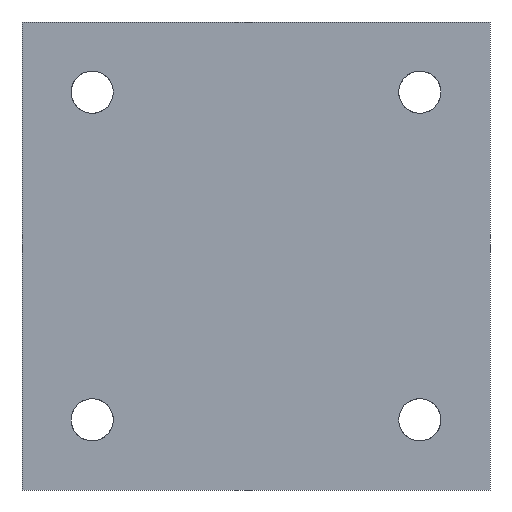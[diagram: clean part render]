
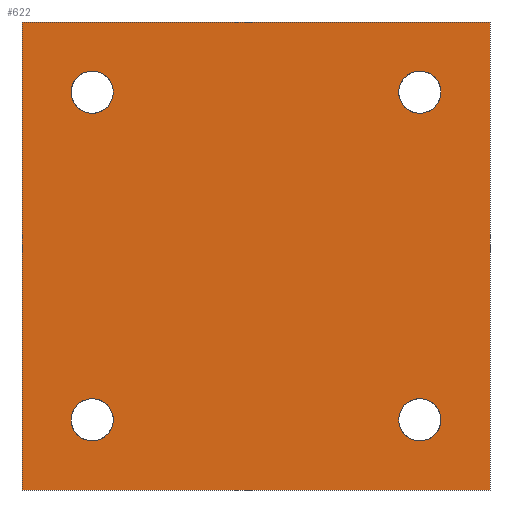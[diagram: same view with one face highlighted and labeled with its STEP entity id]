
A CAD part, front view. The second image highlights one B-rep face of the part: STEP entity #622.
In plain terms, the highlighted face is a extrusion surface.
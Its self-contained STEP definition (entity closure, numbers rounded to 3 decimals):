
#439=CARTESIAN_POINT('Control Point',(-100.,0.,0.)) ;
#440=CARTESIAN_POINT('Control Point',(-100.,0.,-100.)) ;
#444=CARTESIAN_POINT('Line Origine',(-50.,0.,-100.)) ;
#448=CARTESIAN_POINT('Vertex',(-100.,0.,-100.)) ;
#450=CARTESIAN_POINT('Vertex',(0.,0.,-100.)) ;
#453=CARTESIAN_POINT('Line Origine',(0.,0.,-50.)) ;
#457=CARTESIAN_POINT('Vertex',(0.,0.,0.)) ;
#460=CARTESIAN_POINT('Line Origine',(-50.,0.,0.)) ;
#464=CARTESIAN_POINT('Vertex',(-100.,0.,0.)) ;
#467=CARTESIAN_POINT('Line Origine',(-100.,0.,-50.)) ;
#479=CARTESIAN_POINT('Control Point',(-10.5,0.,-85.)) ;
#480=CARTESIAN_POINT('Control Point',(-10.5,0.,-86.247)) ;
#481=CARTESIAN_POINT('Control Point',(-10.932,0.,-87.494)) ;
#482=CARTESIAN_POINT('Control Point',(-11.8,0.,-88.539)) ;
#483=CARTESIAN_POINT('Control Point',(-13.71,0.,-89.63)) ;
#484=CARTESIAN_POINT('Control Point',(-15.841,0.,-89.54)) ;
#485=CARTESIAN_POINT('Control Point',(-16.671,0.,-89.305)) ;
#486=CARTESIAN_POINT('Control Point',(-18.085,0.,-88.511)) ;
#487=CARTESIAN_POINT('Control Point',(-19.032,0.,-87.204)) ;
#488=CARTESIAN_POINT('Control Point',(-19.344,0.,-86.498)) ;
#489=CARTESIAN_POINT('Control Point',(-19.5,0.,-85.749)) ;
#490=CARTESIAN_POINT('Control Point',(-19.5,0.,-85.)) ;
#491=CARTESIAN_POINT('Vertex',(-10.5,0.,-85.)) ;
#493=CARTESIAN_POINT('Vertex',(-19.5,0.,-85.)) ;
#497=CARTESIAN_POINT('Control Point',(-19.5,0.,-85.)) ;
#498=CARTESIAN_POINT('Control Point',(-19.5,0.,-83.753)) ;
#499=CARTESIAN_POINT('Control Point',(-19.068,0.,-82.506)) ;
#500=CARTESIAN_POINT('Control Point',(-18.2,0.,-81.461)) ;
#501=CARTESIAN_POINT('Control Point',(-16.29,0.,-80.37)) ;
#502=CARTESIAN_POINT('Control Point',(-14.159,0.,-80.46)) ;
#503=CARTESIAN_POINT('Control Point',(-13.329,0.,-80.695)) ;
#504=CARTESIAN_POINT('Control Point',(-11.915,0.,-81.489)) ;
#505=CARTESIAN_POINT('Control Point',(-10.968,0.,-82.796)) ;
#506=CARTESIAN_POINT('Control Point',(-10.656,0.,-83.502)) ;
#507=CARTESIAN_POINT('Control Point',(-10.5,0.,-84.251)) ;
#508=CARTESIAN_POINT('Control Point',(-10.5,0.,-85.)) ;
#515=CARTESIAN_POINT('Control Point',(-80.5,0.,-85.)) ;
#516=CARTESIAN_POINT('Control Point',(-80.5,0.,-86.247)) ;
#517=CARTESIAN_POINT('Control Point',(-80.932,0.,-87.494)) ;
#518=CARTESIAN_POINT('Control Point',(-81.8,0.,-88.539)) ;
#519=CARTESIAN_POINT('Control Point',(-83.71,0.,-89.63)) ;
#520=CARTESIAN_POINT('Control Point',(-85.841,0.,-89.54)) ;
#521=CARTESIAN_POINT('Control Point',(-86.671,0.,-89.305)) ;
#522=CARTESIAN_POINT('Control Point',(-88.085,0.,-88.511)) ;
#523=CARTESIAN_POINT('Control Point',(-89.032,0.,-87.204)) ;
#524=CARTESIAN_POINT('Control Point',(-89.344,0.,-86.498)) ;
#525=CARTESIAN_POINT('Control Point',(-89.5,0.,-85.749)) ;
#526=CARTESIAN_POINT('Control Point',(-89.5,0.,-85.)) ;
#527=CARTESIAN_POINT('Vertex',(-80.5,0.,-85.)) ;
#529=CARTESIAN_POINT('Vertex',(-89.5,0.,-85.)) ;
#533=CARTESIAN_POINT('Control Point',(-89.5,0.,-85.)) ;
#534=CARTESIAN_POINT('Control Point',(-89.5,0.,-83.753)) ;
#535=CARTESIAN_POINT('Control Point',(-89.068,0.,-82.506)) ;
#536=CARTESIAN_POINT('Control Point',(-88.2,0.,-81.461)) ;
#537=CARTESIAN_POINT('Control Point',(-86.29,0.,-80.37)) ;
#538=CARTESIAN_POINT('Control Point',(-84.159,0.,-80.46)) ;
#539=CARTESIAN_POINT('Control Point',(-83.329,0.,-80.695)) ;
#540=CARTESIAN_POINT('Control Point',(-81.915,0.,-81.489)) ;
#541=CARTESIAN_POINT('Control Point',(-80.968,0.,-82.796)) ;
#542=CARTESIAN_POINT('Control Point',(-80.656,0.,-83.502)) ;
#543=CARTESIAN_POINT('Control Point',(-80.5,0.,-84.251)) ;
#544=CARTESIAN_POINT('Control Point',(-80.5,0.,-85.)) ;
#551=CARTESIAN_POINT('Control Point',(-80.5,0.,-15.)) ;
#552=CARTESIAN_POINT('Control Point',(-80.5,0.,-16.247)) ;
#553=CARTESIAN_POINT('Control Point',(-80.932,0.,-17.494)) ;
#554=CARTESIAN_POINT('Control Point',(-81.8,0.,-18.539)) ;
#555=CARTESIAN_POINT('Control Point',(-83.71,0.,-19.63)) ;
#556=CARTESIAN_POINT('Control Point',(-85.841,0.,-19.54)) ;
#557=CARTESIAN_POINT('Control Point',(-86.671,0.,-19.305)) ;
#558=CARTESIAN_POINT('Control Point',(-88.085,0.,-18.511)) ;
#559=CARTESIAN_POINT('Control Point',(-89.032,0.,-17.204)) ;
#560=CARTESIAN_POINT('Control Point',(-89.344,0.,-16.498)) ;
#561=CARTESIAN_POINT('Control Point',(-89.5,0.,-15.749)) ;
#562=CARTESIAN_POINT('Control Point',(-89.5,0.,-15.)) ;
#563=CARTESIAN_POINT('Vertex',(-80.5,0.,-15.)) ;
#565=CARTESIAN_POINT('Vertex',(-89.5,0.,-15.)) ;
#569=CARTESIAN_POINT('Control Point',(-89.5,0.,-15.)) ;
#570=CARTESIAN_POINT('Control Point',(-89.5,0.,-13.753)) ;
#571=CARTESIAN_POINT('Control Point',(-89.068,0.,-12.506)) ;
#572=CARTESIAN_POINT('Control Point',(-88.2,0.,-11.461)) ;
#573=CARTESIAN_POINT('Control Point',(-86.29,0.,-10.37)) ;
#574=CARTESIAN_POINT('Control Point',(-84.159,0.,-10.46)) ;
#575=CARTESIAN_POINT('Control Point',(-83.329,0.,-10.695)) ;
#576=CARTESIAN_POINT('Control Point',(-81.915,0.,-11.489)) ;
#577=CARTESIAN_POINT('Control Point',(-80.968,0.,-12.796)) ;
#578=CARTESIAN_POINT('Control Point',(-80.656,0.,-13.502)) ;
#579=CARTESIAN_POINT('Control Point',(-80.5,0.,-14.251)) ;
#580=CARTESIAN_POINT('Control Point',(-80.5,0.,-15.)) ;
#587=CARTESIAN_POINT('Control Point',(-10.5,0.,-15.)) ;
#588=CARTESIAN_POINT('Control Point',(-10.5,0.,-16.247)) ;
#589=CARTESIAN_POINT('Control Point',(-10.932,0.,-17.494)) ;
#590=CARTESIAN_POINT('Control Point',(-11.8,0.,-18.539)) ;
#591=CARTESIAN_POINT('Control Point',(-13.71,0.,-19.63)) ;
#592=CARTESIAN_POINT('Control Point',(-15.841,0.,-19.54)) ;
#593=CARTESIAN_POINT('Control Point',(-16.671,0.,-19.305)) ;
#594=CARTESIAN_POINT('Control Point',(-18.085,0.,-18.511)) ;
#595=CARTESIAN_POINT('Control Point',(-19.032,0.,-17.204)) ;
#596=CARTESIAN_POINT('Control Point',(-19.344,0.,-16.498)) ;
#597=CARTESIAN_POINT('Control Point',(-19.5,0.,-15.749)) ;
#598=CARTESIAN_POINT('Control Point',(-19.5,0.,-15.)) ;
#599=CARTESIAN_POINT('Vertex',(-10.5,0.,-15.)) ;
#601=CARTESIAN_POINT('Vertex',(-19.5,0.,-15.)) ;
#605=CARTESIAN_POINT('Control Point',(-19.5,0.,-15.)) ;
#606=CARTESIAN_POINT('Control Point',(-19.5,0.,-13.753)) ;
#607=CARTESIAN_POINT('Control Point',(-19.068,0.,-12.506)) ;
#608=CARTESIAN_POINT('Control Point',(-18.2,0.,-11.461)) ;
#609=CARTESIAN_POINT('Control Point',(-16.29,0.,-10.37)) ;
#610=CARTESIAN_POINT('Control Point',(-14.159,0.,-10.46)) ;
#611=CARTESIAN_POINT('Control Point',(-13.329,0.,-10.695)) ;
#612=CARTESIAN_POINT('Control Point',(-11.915,0.,-11.489)) ;
#613=CARTESIAN_POINT('Control Point',(-10.968,0.,-12.796)) ;
#614=CARTESIAN_POINT('Control Point',(-10.656,0.,-13.502)) ;
#615=CARTESIAN_POINT('Control Point',(-10.5,0.,-14.251)) ;
#616=CARTESIAN_POINT('Control Point',(-10.5,0.,-15.)) ;
#441=DIRECTION('Vector Direction',(1.,0.,0.)) ;
#445=DIRECTION('Vector Direction',(1.,0.,0.)) ;
#454=DIRECTION('Vector Direction',(0.,0.,-1.)) ;
#461=DIRECTION('Vector Direction',(1.,0.,0.)) ;
#468=DIRECTION('Vector Direction',(0.,0.,-1.)) ;
#473=ORIENTED_EDGE('',*,*,#452,.T.) ;
#474=ORIENTED_EDGE('',*,*,#459,.T.) ;
#475=ORIENTED_EDGE('',*,*,#466,.T.) ;
#476=ORIENTED_EDGE('',*,*,#471,.T.) ;
#511=ORIENTED_EDGE('',*,*,#495,.T.) ;
#512=ORIENTED_EDGE('',*,*,#509,.T.) ;
#547=ORIENTED_EDGE('',*,*,#531,.T.) ;
#548=ORIENTED_EDGE('',*,*,#545,.T.) ;
#583=ORIENTED_EDGE('',*,*,#567,.T.) ;
#584=ORIENTED_EDGE('',*,*,#581,.T.) ;
#619=ORIENTED_EDGE('',*,*,#603,.T.) ;
#620=ORIENTED_EDGE('',*,*,#617,.T.) ;
#513=FACE_BOUND('',#510,.T.) ;
#549=FACE_BOUND('',#546,.T.) ;
#585=FACE_BOUND('',#582,.T.) ;
#621=FACE_BOUND('',#618,.T.) ;
#442=VECTOR('Extrusion Surface Vector',#441,1.) ;
#446=VECTOR('Line Direction',#445,1.) ;
#455=VECTOR('Line Direction',#454,1.) ;
#462=VECTOR('Line Direction',#461,1.) ;
#469=VECTOR('Line Direction',#468,1.) ;
#622=ADVANCED_FACE('Superficie.6',(#477,#513,#549,#585,#621),#443,.T.) ;
#438=B_SPLINE_CURVE_WITH_KNOTS('',1,(#439,#440),.UNSPECIFIED.,.F.,.U.,(2,2),(-50.,50.),.UNSPECIFIED.) ;
#478=B_SPLINE_CURVE_WITH_KNOTS('',5,(#479,#480,#481,#482,#483,#484,#485,#486,#487,#488,#489,#490),.UNSPECIFIED.,.F.,.U.,(6,3,3,6),(0.,8.818,14.697,19.993),.UNSPECIFIED.) ;
#496=B_SPLINE_CURVE_WITH_KNOTS('',5,(#497,#498,#499,#500,#501,#502,#503,#504,#505,#506,#507,#508),.UNSPECIFIED.,.F.,.U.,(6,3,3,6),(0.,8.818,14.697,19.993),.UNSPECIFIED.) ;
#514=B_SPLINE_CURVE_WITH_KNOTS('',5,(#515,#516,#517,#518,#519,#520,#521,#522,#523,#524,#525,#526),.UNSPECIFIED.,.F.,.U.,(6,3,3,6),(0.,8.818,14.697,19.993),.UNSPECIFIED.) ;
#532=B_SPLINE_CURVE_WITH_KNOTS('',5,(#533,#534,#535,#536,#537,#538,#539,#540,#541,#542,#543,#544),.UNSPECIFIED.,.F.,.U.,(6,3,3,6),(0.,8.818,14.697,19.993),.UNSPECIFIED.) ;
#550=B_SPLINE_CURVE_WITH_KNOTS('',5,(#551,#552,#553,#554,#555,#556,#557,#558,#559,#560,#561,#562),.UNSPECIFIED.,.F.,.U.,(6,3,3,6),(0.,8.818,14.697,19.993),.UNSPECIFIED.) ;
#568=B_SPLINE_CURVE_WITH_KNOTS('',5,(#569,#570,#571,#572,#573,#574,#575,#576,#577,#578,#579,#580),.UNSPECIFIED.,.F.,.U.,(6,3,3,6),(0.,8.818,14.697,19.993),.UNSPECIFIED.) ;
#586=B_SPLINE_CURVE_WITH_KNOTS('',5,(#587,#588,#589,#590,#591,#592,#593,#594,#595,#596,#597,#598),.UNSPECIFIED.,.F.,.U.,(6,3,3,6),(0.,8.818,14.697,19.993),.UNSPECIFIED.) ;
#604=B_SPLINE_CURVE_WITH_KNOTS('',5,(#605,#606,#607,#608,#609,#610,#611,#612,#613,#614,#615,#616),.UNSPECIFIED.,.F.,.U.,(6,3,3,6),(0.,8.818,14.697,19.993),.UNSPECIFIED.) ;
#452=EDGE_CURVE('',#449,#451,#447,.T.) ;
#459=EDGE_CURVE('',#451,#458,#456,.F.) ;
#466=EDGE_CURVE('',#458,#465,#463,.F.) ;
#471=EDGE_CURVE('',#465,#449,#470,.T.) ;
#495=EDGE_CURVE('',#492,#494,#478,.T.) ;
#509=EDGE_CURVE('',#494,#492,#496,.T.) ;
#531=EDGE_CURVE('',#528,#530,#514,.T.) ;
#545=EDGE_CURVE('',#530,#528,#532,.T.) ;
#567=EDGE_CURVE('',#564,#566,#550,.T.) ;
#581=EDGE_CURVE('',#566,#564,#568,.T.) ;
#603=EDGE_CURVE('',#600,#602,#586,.T.) ;
#617=EDGE_CURVE('',#602,#600,#604,.T.) ;
#472=EDGE_LOOP('',(#473,#474,#475,#476)) ;
#510=EDGE_LOOP('',(#511,#512)) ;
#546=EDGE_LOOP('',(#547,#548)) ;
#582=EDGE_LOOP('',(#583,#584)) ;
#618=EDGE_LOOP('',(#619,#620)) ;
#477=FACE_OUTER_BOUND('',#472,.T.) ;
#447=LINE('Line',#444,#446) ;
#456=LINE('Line',#453,#455) ;
#463=LINE('Line',#460,#462) ;
#470=LINE('Line',#467,#469) ;
#443=SURFACE_OF_LINEAR_EXTRUSION('generated tabulated cylinder',#438,#442) ;
#449=VERTEX_POINT('',#448) ;
#451=VERTEX_POINT('',#450) ;
#458=VERTEX_POINT('',#457) ;
#465=VERTEX_POINT('',#464) ;
#492=VERTEX_POINT('',#491) ;
#494=VERTEX_POINT('',#493) ;
#528=VERTEX_POINT('',#527) ;
#530=VERTEX_POINT('',#529) ;
#564=VERTEX_POINT('',#563) ;
#566=VERTEX_POINT('',#565) ;
#600=VERTEX_POINT('',#599) ;
#602=VERTEX_POINT('',#601) ;
